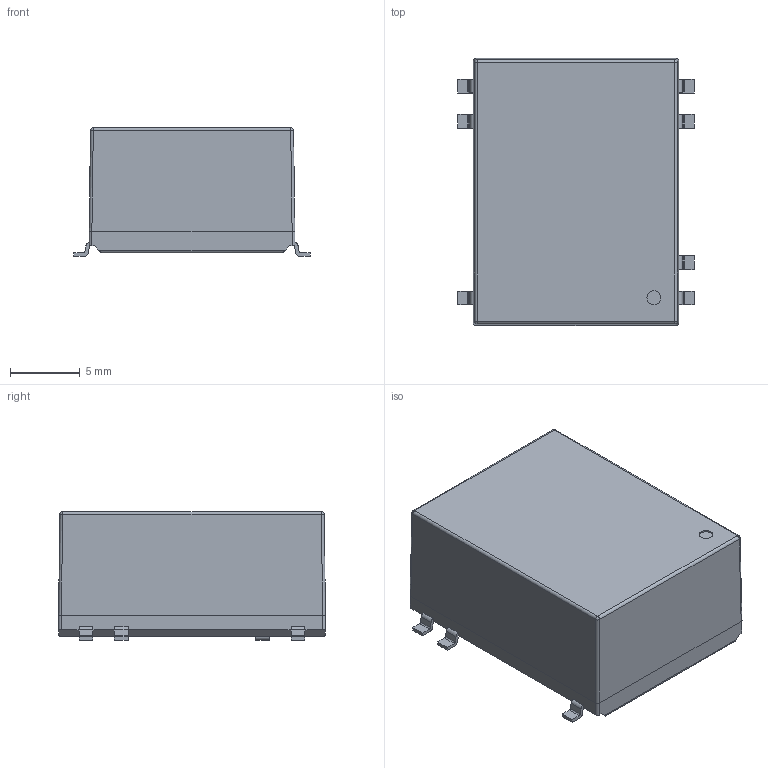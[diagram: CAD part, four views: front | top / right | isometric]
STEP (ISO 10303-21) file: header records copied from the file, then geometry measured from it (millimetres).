
FILE_DESCRIPTION(/* description */ (''),/* implementation_level */ '2;1');
FILE_NAME(/* name */ 'C:\Users\Calliope\Desktop\MS+水洗孔3D\TMR 2WISM(MSCWI02-W)+TMR 3WISM(MSCWI03-W).stp',/* time_stamp */ '2016-03-17T14:36:56+08:00',/* author */ ('Calliope'),/* organization */ (''),/* preprocessor_version */ 'ST-DEVELOPER v15.6',/* originating_system */ 'Autodesk Inventor 2015',/* authorisation */ '');
FILE_SCHEMA (('AUTOMOTIVE_DESIGN { 1 0 10303 214 3 1 1 }'));
Length unit declared in the file: millimetre
Products named in the file (3): MSCWI02-W Header; MSCWI02 Cover; MSCWI02+MSCWI03
Assembly tree (2 placements, depth 2):
  MSCWI02+MSCWI03
    MSCWI02-W Header
    MSCWI02 Cover
Bounding box: 17 x 19.2 x 9.25 mm (x, y, z)
Volume: 909.7 mm3; surface area: 2216.9 mm2
Topology: 2 solids, 2 shells, 191 faces, 512 edges, 328 vertices
Faces by surface type: plane 126, cylinder 57, sphere 8
Full cylindrical faces by diameter (mm): 1 x2, 1.5 x1
Entity records: 6047 total; most frequent: CARTESIAN_POINT 1025, DIRECTION 1007, ORIENTED_EDGE 1002, EDGE_CURVE 501, LINE 387, VECTOR 387, VERTEX_POINT 328, AXIS2_PLACEMENT_3D 310
